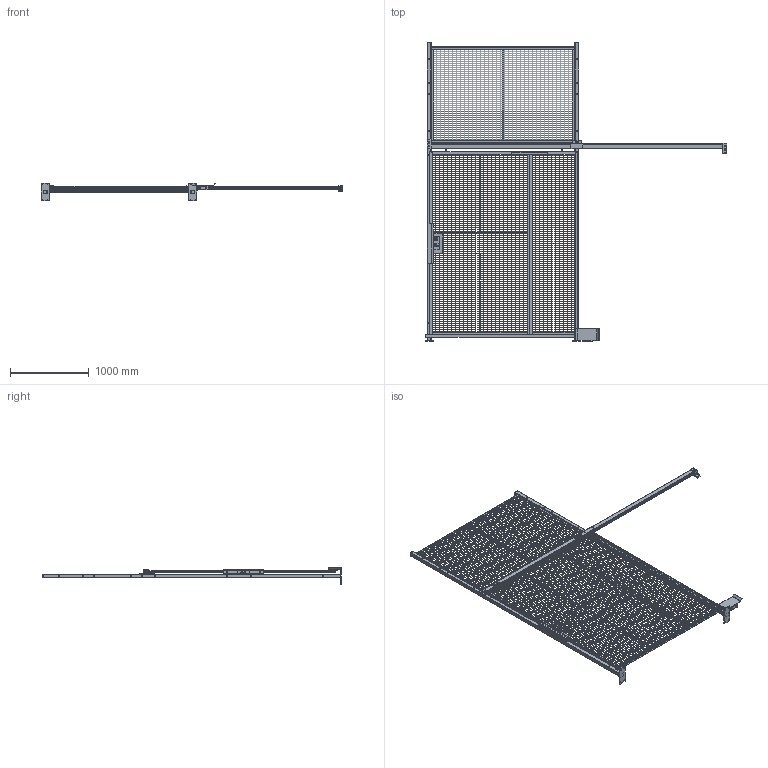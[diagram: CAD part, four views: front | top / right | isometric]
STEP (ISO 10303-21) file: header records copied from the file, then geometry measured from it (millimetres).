
FILE_DESCRIPTION (( 'STEP AP214' ), '1' );
FILE_NAME ('SD6812RHO.STEP', '2021-03-31T14:07:21', ( '' ), ( '' ), 'SwSTEP 2.0', 'SolidWorks 2021', '' );
FILE_SCHEMA (( 'AUTOMOTIVE_DESIGN' ));
Length unit declared in the file: inch
Products named in the file (51): SDRECA; COMMON 840 SD TRK ASSEMBLY_SD TRK12 RHO; FS12412TMS; COMMON STRU ANGLE 11418_PXL2PC; SF-1 LATCH; COMMON 840 SLIDE DOOR SUB_SD68RH; COMMON 840 POST_DP12P; SDTT4WH_NO BOLT; SGDG12; COMMON FLAT BAR_PXSDFV; COMMON MESH_MH64; COMMON STRU ANGLE 11418_PXSD4PC; SDRECB; COMMON STRU ANGLE 11418_PXSD8PX; SDREC; SDLKCOV; COMMON FLAT BAR_PXSD4FH; COMMON WIRE_10GA X 23; COMMON 840 PANEL FRAME_64; COMMON WIRE_10GA X 49; COMMON STRU ANGLE 11418_PX4PC; POST CAP; SDLKRECT; SDTT4WH_CUT BOLT; COMMON 840 SLIDE DOOR_SD4-RH; COMMON MESH_SDL2; SDDEPCH; SDTJBKT-CHNNL; SB-1; COMMON WIRE_10GA X 47; HDLKPLATEF; COMMON FLAT BAR_PXL2FH; SDSCH412238; COMMON SD TRK_SDTRK12; COMMON WIRE_10GA X 71.5; COMMON MESH_MHSD4; COMMON WIRE_10GA X 90.5; SDTJBKT-ANGLE; SDTCBKT; COMMON 840 SLIDE DOOR_SDL2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
Assembly tree (358 placements, depth 5):
  SD6812RHO
    COMMON 840 POST WELD_DP12P  x2
      COMMON BASE PLATE_BP49
      COMMON 840 POST_DP12P
      POST CAP
    COMMON 840 SD TRK ASSEMBLY_SD TRK12 RHO
      COMMON SD TRK_SDTRK12
      SDTCBKT  x2
      RTAPFL
      SDSCH412238
    COMMON 840 SLIDE DOOR SUB_SD68RH
      COMMON 840 SLIDE DOOR_SD4-RH
        COMMON STRU ANGLE 11418_PXSD4PC  x2
        COMMON STRU ANGLE 11418_PXSD8PX
        COMMON STRU ANGLE 11418_PXSD8PL
        HDLKPLATEF
        HDLKPLATEB
        COMMON FLAT BAR_PXSD4FH  x2
        COMMON FLAT BAR_PXSDFV  x2
        SDLKCOV
        COMMON MESH_MHSD4
          COMMON WIRE_10GA X 49  x91
          COMMON WIRE_10GA X 90.5  x25
        SF-1 LATCH
          SF-1 LATCH
          SB-1
      COMMON 840 SLIDE DOOR_SDL2
        COMMON STRU ANGLE 11418_PXL2PC  x2
        COMMON STRU ANGLE 11418_PXSD8PX  x2
        COMMON MESH_SDL2
          COMMON WIRE_10GA X 23  x91
          COMMON WIRE_10GA X 90.5  x12
        COMMON FLAT BAR_PXL2FH
      SDDEPCH
    SDTT4WH_CUT BOLT  x2
      SDTT4WH_NO BOLT
      FS12412TMS
    COMMON 840 PANEL FRAME_64
      COMMON STRU ANGLE 11418_PX6  x2
      COMMON STRU ANGLE 11418_PX4PC  x2
      COMMON FLAT BAR_PX4F
      COMMON MESH_MH64
        COMMON WIRE_10GA X 71.5  x47
        COMMON WIRE_10GA X 47  x36
    SDTJBKT
      SDTJBKT-CHNNL
      SDTJBKT-ANGLE
    SGDG12
    SDREC
      SDRECB
      SDLKRECT
      SDRECA
    COMMON SD COVER BAR_SDCB1
Bounding box: 3836.14 x 3794.76 x 228.6 mm (x, y, z)
Volume: 13884702.6 mm3; surface area: 12460608.9 mm2
Topology: 361 solids, 367 shells, 3560 faces, 7534 edges, 4775 vertices
Faces by surface type: plane 1840, cylinder 1103, cone 365, bspline 188, torus 60, sphere 4
Full cylindrical faces by diameter (mm): 3.429 x302, 5.182 x4, 6.35 x4, 9.525 x173, 11.112 x12, 12.7 x78, 14.021 x1, 14.046 x1, 14.287 x12, 19.05 x2, 34.049 x1, 35.687 x1, 38.862 x1, 44.704 x1, 45.822 x1, 50.8 x8, 53.975 x8
Entity records: 81078 total; most frequent: CARTESIAN_POINT 33170, DIRECTION 8973, ORIENTED_EDGE 8650, EDGE_CURVE 4337, AXIS2_PLACEMENT_3D 3139, VERTEX_POINT 2916, LINE 2695, VECTOR 2695
